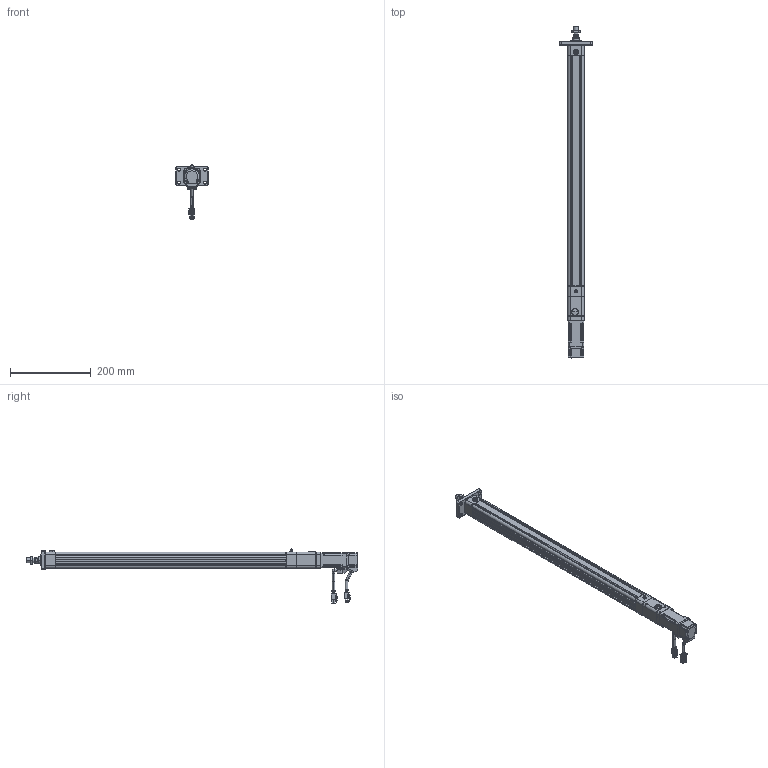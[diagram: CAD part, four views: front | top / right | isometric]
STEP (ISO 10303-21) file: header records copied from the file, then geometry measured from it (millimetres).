
FILE_DESCRIPTION((''),'2;1');
FILE_NAME('HE32-D-100-2-5_ASM','2020-04-18T',('ASUS20200'),(''),'CREO PARAMETRIC BY PTC INC, 2014190','CREO PARAMETRIC BY PTC INC, 2014190','');
FILE_SCHEMA(('CONFIG_CONTROL_DESIGN'));
Length unit declared in the file: millimetre
Products named in the file (27): HE32-001-X1; HE32-002-X1; HE32-003-X1; 636ZZ; HE32-007-X1; HE32-008-X1; 1_1; 2_1; 3_1; 4_1; 5_1; 6_1; 7_1; ASM0001_ASM; TF1622-20; SLM-01; YZ-M6X1; SKT-13; LGLM-M6-22; HE32-005-X1; HE32-004-X1; HE32-D-P-008-X1; F-SI32FA; M6X20; TD-3; M3X16; HE32-D-100-2-5_ASM
Assembly tree (38 placements, depth 3):
  HE32-D-100-2-5_ASM
    HE32-001-X1
    HE32-002-X1
    HE32-003-X1
    636ZZ
    HE32-007-X1
    HE32-008-X1
    ASM0001_ASM
      1_1
      2_1
      3_1
      4_1
      5_1
      6_1
      7_1
    TF1622-20
    SLM-01
    YZ-M6X1
    SKT-13
    LGLM-M6-22  x4
    HE32-005-X1
    HE32-004-X1
    HE32-D-P-008-X1
    F-SI32FA
    M6X20  x4
    TD-3  x4
    M3X16  x4
Bounding box: 80 x 822.03 x 134.2 mm (x, y, z)
Volume: 758082.1 mm3; surface area: 332392.8 mm2
Topology: 37 solids, 59 shells, 2272 faces, 5491 edges, 3405 vertices
Faces by surface type: plane 974, cylinder 650, cone 540, torus 78, bspline 18, sphere 12
Entity records: 60419 total; most frequent: CARTESIAN_POINT 12038, DIRECTION 10545, ORIENTED_EDGE 9545, EDGE_CURVE 4817, AXIS2_PLACEMENT_3D 3921, VERTEX_POINT 3006, VECTOR 2703, LINE 2703
